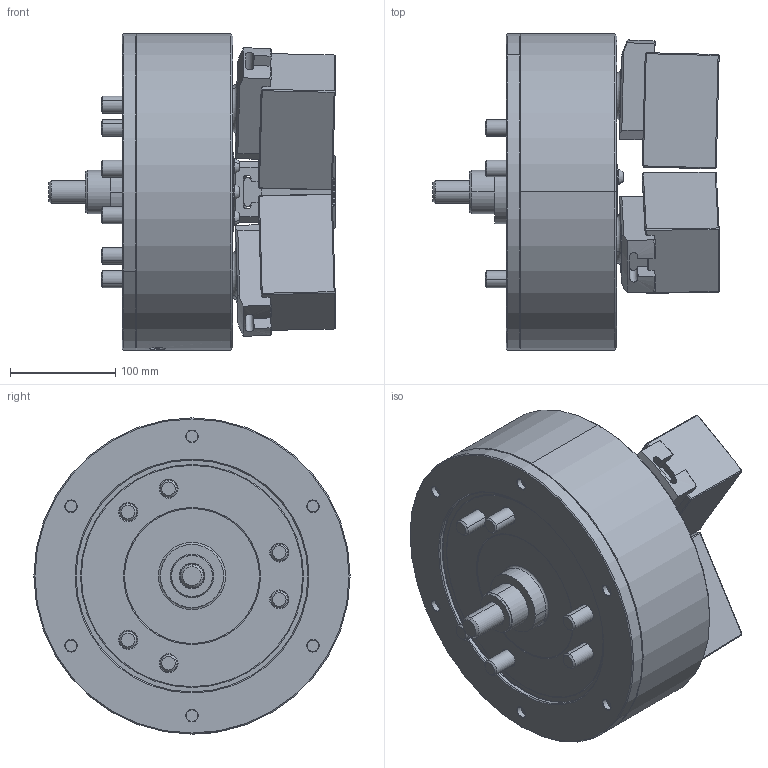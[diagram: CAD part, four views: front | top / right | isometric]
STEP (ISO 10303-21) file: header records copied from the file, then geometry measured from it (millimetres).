
FILE_DESCRIPTION (( 'STEP AP214' ), '1' );
FILE_NAME ('PW-12_OC.STEP', '2019-10-08T06:49:50', ( '' ), ( '' ), 'SwSTEP 2.0', 'SolidWorks 2017', '' );
FILE_SCHEMA (( 'AUTOMOTIVE_DESIGN' ));
Length unit declared in the file: millimetre
Products named in the file (5): 結合_OD; 0030116025; 61P420193; 61P323264; PW-12_OC
Assembly tree (13 placements, depth 2):
  PW-12_OC
    61P323264  x3
    61P420193  x3
    0030116025  x6
    結合_OD
Bounding box: 271.64 x 300 x 300 mm (x, y, z)
Volume: 9038080.7 mm3; surface area: 608755.4 mm2
Topology: 13 solids, 14 shells, 1755 faces, 4243 edges, 2638 vertices
Faces by surface type: plane 903, cone 326, cylinder 281, bspline 185, torus 60
Entity records: 51450 total; most frequent: CARTESIAN_POINT 18056, ORIENTED_EDGE 7162, DIRECTION 6285, EDGE_CURVE 3581, VERTEX_POINT 2263, AXIS2_PLACEMENT_3D 2135, VECTOR 2015, LINE 2015
